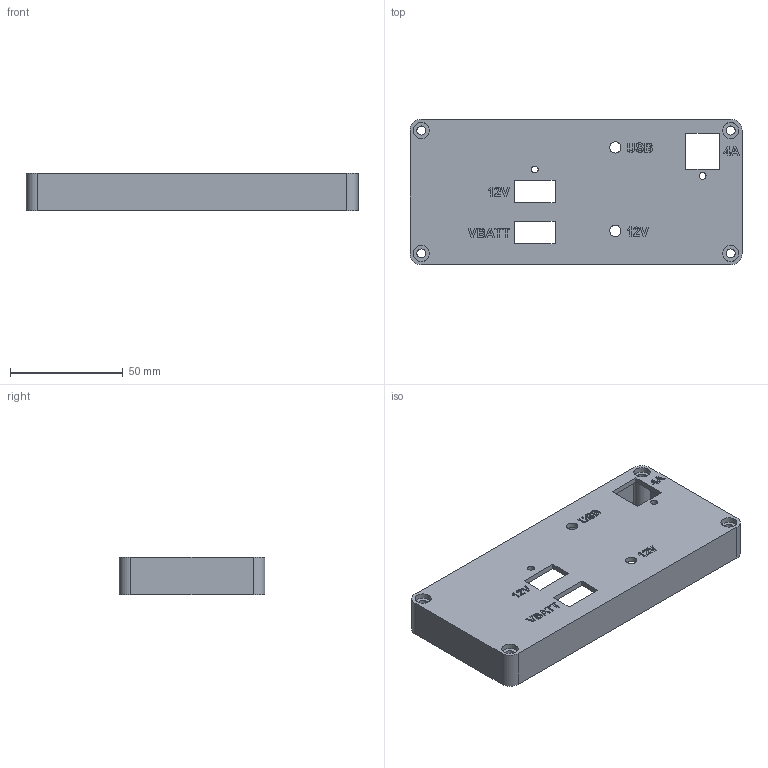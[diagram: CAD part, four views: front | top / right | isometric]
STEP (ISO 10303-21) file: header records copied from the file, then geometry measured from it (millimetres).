
FILE_DESCRIPTION(/* description */ (''),/* implementation_level */ '2;1');
FILE_NAME(/* name */ 'D:\3d\leaf_lid.stp',/* time_stamp */ '2019-11-10T16:36:26-08:00',/* author */ ('RUARK'),/* organization */ (''),/* preprocessor_version */ 'ST-DEVELOPER v18',/* originating_system */ 'Autodesk Inventor 2020',/* authorisation */ '');
FILE_SCHEMA (('AUTOMOTIVE_DESIGN { 1 0 10303 214 3 1 1 }'));
Length unit declared in the file: millimetre
Products named in the file (1): leaf_lid
Bounding box: 147.16 x 64.5 x 16.8 mm (x, y, z)
Volume: 33836.9 mm3; surface area: 32132.4 mm2
Topology: 1 solids, 1 shells, 254 faces, 718 edges, 508 vertices
Faces by surface type: plane 167, bspline 67, cylinder 20
Full cylindrical faces by diameter (mm): 3 x2, 4 x4, 5 x2, 7.2 x4
Entity records: 8479 total; most frequent: CARTESIAN_POINT 2304, ORIENTED_EDGE 1364, DIRECTION 1006, EDGE_CURVE 682, LINE 498, VECTOR 498, VERTEX_POINT 448, EDGE_LOOP 304
